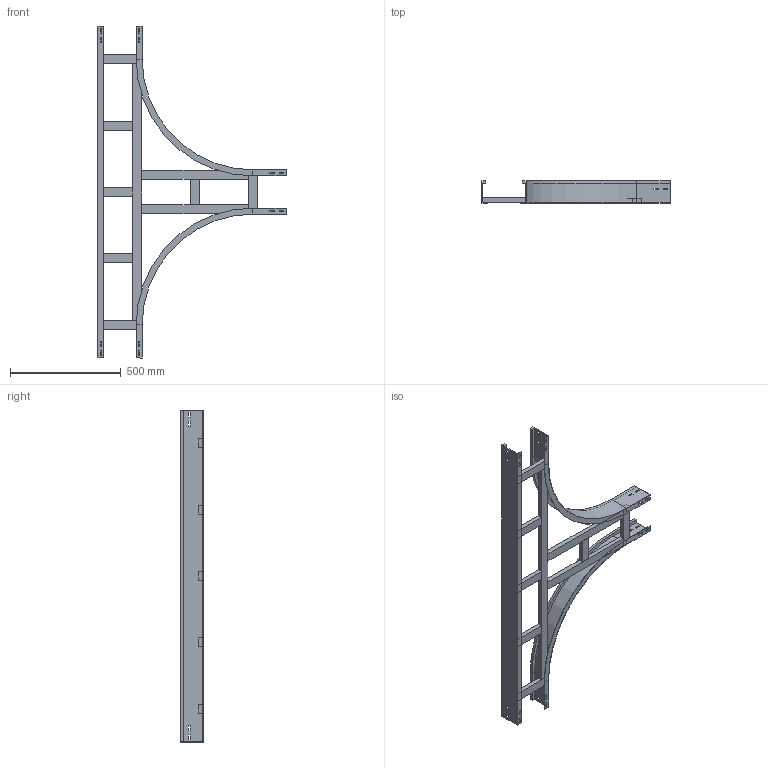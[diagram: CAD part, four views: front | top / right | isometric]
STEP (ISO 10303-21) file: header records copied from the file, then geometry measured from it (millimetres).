
FILE_DESCRIPTION (( 'STEP AP214' ), '1' );
FILE_NAME ('15B5D200.step', '2025-02-21T15:48:53', ( '' ), ( '' ), 'SwSTEP 2.0', 'SolidWorks 2023', '' );
FILE_SCHEMA (( 'AUTOMOTIVE_DESIGN' ));
Length unit declared in the file: millimetre
Products named in the file (8): LONGH.RETT_H100_R500+200; 15B5D200; TRAVERSINO_INTERMEDIO_R500+200; LONGH.INTERNO 90°_H100_R500; TRAVERSINO_LONG._R500+200; TRAVERSINO_COPPIA_200; TRAVERSINO_200; TRAVERSINO_VERT_R500
Assembly tree (13 placements, depth 2):
  15B5D200
    LONGH.INTERNO 90°_H100_R500  x2
    LONGH.RETT_H100_R500+200
    TRAVERSINO_200  x3
    TRAVERSINO_LONG._R500+200
    TRAVERSINO_INTERMEDIO_R500+200  x3
    TRAVERSINO_VERT_R500  x2
    TRAVERSINO_COPPIA_200
Bounding box: 850 x 100 x 1500 mm (x, y, z)
Volume: 4290962.8 mm3; surface area: 1467168.4 mm2
Topology: 13 solids, 13 shells, 218 faces, 544 edges, 352 vertices
Faces by surface type: plane 210, cylinder 8
Entity records: 4201 total; most frequent: CARTESIAN_POINT 694, ORIENTED_EDGE 664, DIRECTION 632, EDGE_CURVE 332, VECTOR 324, LINE 324, VERTEX_POINT 216, EDGE_LOOP 162
